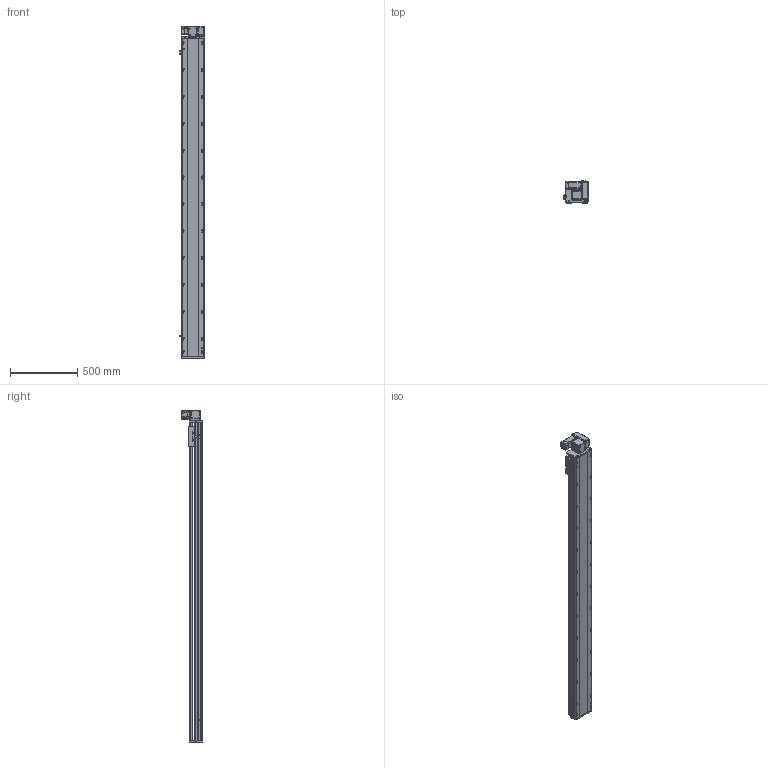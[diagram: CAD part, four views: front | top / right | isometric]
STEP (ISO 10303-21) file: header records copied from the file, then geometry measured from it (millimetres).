
FILE_DESCRIPTION (( 'STEP AP214' ), '1' );
FILE_NAME ('RTB17S-XX-2100-RW-M40-C4.STEP', '2025-12-11T09:09:38', ( '' ), ( '' ), 'SwSTEP 2.0', 'SolidWorks 2018', '' );
FILE_SCHEMA (( 'AUTOMOTIVE_DESIGN' ));
Length unit declared in the file: millimetre
Products named in the file (14): RTB17-R-011菁釱^RTB17S-XX-XX-RW-M40-C4; RMP17S-L-014-T20--々湍釱^RTB17S-RW-々湍釱蚾饜-400W_RTB17S-XX-XX-RW-M40-C4; RTB14-L-018P^RTB17S-RW-々湍釱蚾饜-400W_RTB17S-XX-XX-RW-M40-C4; RTB17S-XX-2100-RW-M40-C4; RTB17S-RW-々湍釱蚾饜-400W^RTB17S-XX-XX-RW-M40-C4; RTB17S-L-007奻裔^RTB17S-XX-XX-RW-M40-C4; 400W侜督萇儂^RTB17S-XX-XX-RW-M40-C4; OMRON EE-SX672 传感器^RTB17S-XX-XX-RW-M40-C4; RTB14-L-005P--轴承塑胶压盖^RTB17S-RW-皮带座装配-400W_RTB17S-XX-XX-RW-M40-C4; RTB17S-L-001耜醱啣^RTB17S-XX-XX-RW-M40-C4; RTB14-L-008-M20--萇儂啣^RTB17S-RW-々湍釱蚾饜-400W_RTB17S-XX-XX-RW-M40-C4; RTB14-L-017P^RTB17S-RW-々湍釱蚾饜-400W_RTB17S-XX-XX-RW-M40-C4; RTB17S-L-004佪裝蹟譫蟀諉釱^RTB17S-XX-XX-RW-M40-C4; RTH13-BL-012覜茼え俋离^RTB17S-XX-XX-RW-M40-C4
Assembly tree (16 placements, depth 3):
  RTB17S-XX-2100-RW-M40-C4
    RTB17-R-011菁釱^RTB17S-XX-XX-RW-M40-C4
    RTB17S-L-007奻裔^RTB17S-XX-XX-RW-M40-C4
    OMRON EE-SX672 传感器^RTB17S-XX-XX-RW-M40-C4  x3
    RTB17S-L-001耜醱啣^RTB17S-XX-XX-RW-M40-C4
    400W侜督萇儂^RTB17S-XX-XX-RW-M40-C4
    RTB17S-L-004佪裝蹟譫蟀諉釱^RTB17S-XX-XX-RW-M40-C4
    RTH13-BL-012覜茼え俋离^RTB17S-XX-XX-RW-M40-C4
    RTB17S-RW-々湍釱蚾饜-400W^RTB17S-XX-XX-RW-M40-C4
      RMP17S-L-014-T20--々湍釱^RTB17S-RW-々湍釱蚾饜-400W_RTB17S-XX-XX-RW-M40-C4
      RTB14-L-005P--轴承塑胶压盖^RTB17S-RW-皮带座装配-400W_RTB17S-XX-XX-RW-M40-C4
      RTB14-L-008-M20--萇儂啣^RTB17S-RW-々湍釱蚾饜-400W_RTB17S-XX-XX-RW-M40-C4
      RTB14-L-017P^RTB17S-RW-々湍釱蚾饜-400W_RTB17S-XX-XX-RW-M40-C4  x2
      RTB14-L-018P^RTB17S-RW-々湍釱蚾饜-400W_RTB17S-XX-XX-RW-M40-C4
Bounding box: 183.5 x 160.5 x 2472.5 mm (x, y, z)
Volume: 21342140 mm3; surface area: 2477184.7 mm2
Topology: 15 solids, 15 shells, 2301 faces, 6411 edges, 4185 vertices
Faces by surface type: plane 1080, cylinder 773, bspline 301, cone 139, torus 8
Entity records: 67241 total; most frequent: CARTESIAN_POINT 19016, ORIENTED_EDGE 9666, DIRECTION 8936, EDGE_CURVE 4833, VERTEX_POINT 3173, AXIS2_PLACEMENT_3D 3103, VECTOR 2730, LINE 2730
